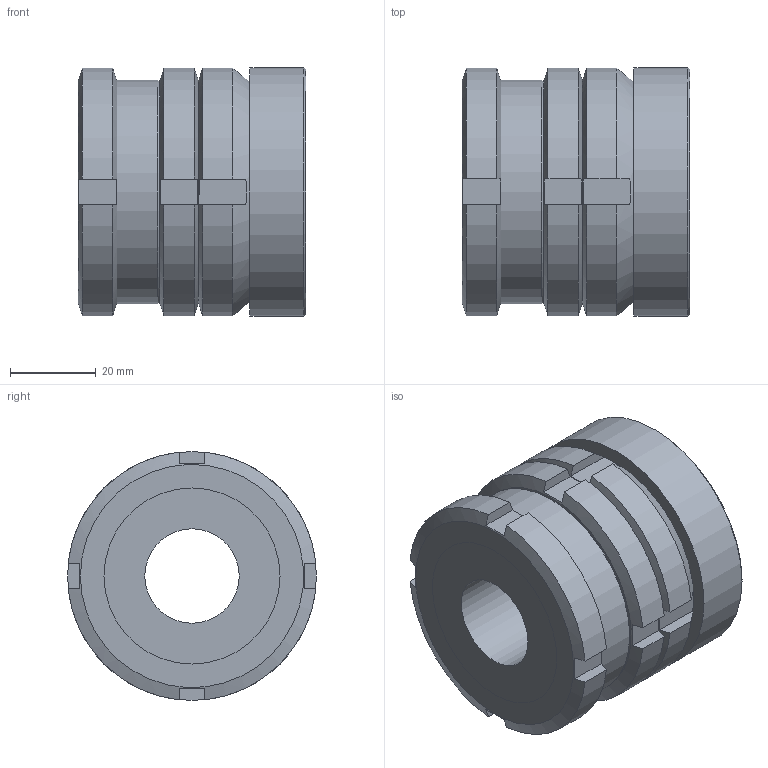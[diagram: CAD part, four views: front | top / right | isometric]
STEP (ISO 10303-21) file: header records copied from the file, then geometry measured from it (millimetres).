
FILE_DESCRIPTION( ( 'STEP AP203' ), '1' );
FILE_NAME( 'C:/Temp/Ganter_Step_05_03_2020/data/3_2/gn350_5/gn350_5_ni/Stainless Steel-Levelling set GN 350.5-58-22-53-NI (0-0).stp', '2020-03-13T05:28:53', ( 'License CC BY-ND 4.0' ), ( 'CADENAS' ), ' ', 'PARTsolutions', ' ' );
FILE_SCHEMA( ( 'CONFIG_CONTROL_DESIGN' ) );
Length unit declared in the file: millimetre
Products named in the file (5): Stainless Steel-Levelling set GN 350.5-58-22-53-NI (0-0); _Levelling set GN 350.5-58-22-53-ST-G; _Levelling set GN 350.5-58-22-53-ST-K; _Levelling set GN 350.5-58-22-53-ST-P(0); _Levelling set GN 350.5-58-22-53-ST-KM
Assembly tree (4 placements, depth 2):
  Stainless Steel-Levelling set GN 350.5-58-22-53-NI (0-0)
    _Levelling set GN 350.5-58-22-53-ST-G
    _Levelling set GN 350.5-58-22-53-ST-K
    _Levelling set GN 350.5-58-22-53-ST-P(0)
    _Levelling set GN 350.5-58-22-53-ST-KM
Bounding box: 53 x 58 x 58 mm (x, y, z)
Volume: 108934.5 mm3; surface area: 35161.7 mm2
Topology: 4 solids, 4 shells, 85 faces, 211 edges, 140 vertices
Faces by surface type: plane 50, cylinder 24, cone 9, sphere 2
Full cylindrical faces by diameter (mm): 22 x1, 31.5 x1, 33.485 x1, 34.5 x1, 38.376 x1, 38.917 x1, 39 x1, 40 x1, 41 x2, 52 x1, 58 x1
Entity records: 2696 total; most frequent: CARTESIAN_POINT 698, DIRECTION 368, ORIENTED_EDGE 356, EDGE_CURVE 178, AXIS2_PLACEMENT_3D 160, VERTEX_POINT 130, EDGE_LOOP 122, FACE_OUTER_BOUND 99
